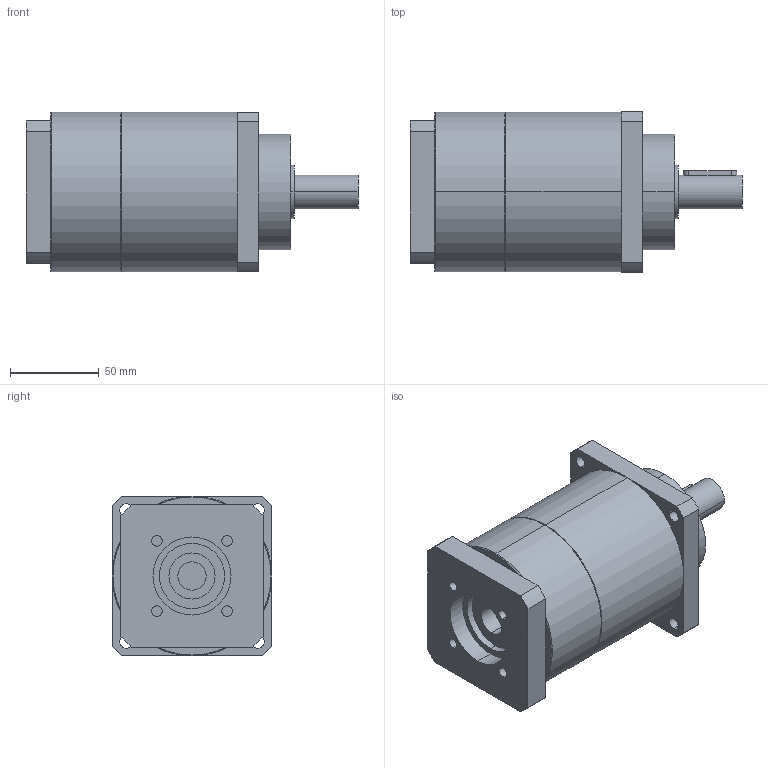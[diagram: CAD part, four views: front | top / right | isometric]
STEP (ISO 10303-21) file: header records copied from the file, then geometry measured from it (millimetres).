
FILE_DESCRIPTION(('CoCreate Modeling STEP Export'),'2;1');
FILE_NAME('GPT90_ig-9-12-16-20-25-28-35-40-50-70-100_19_B5T_15.87_P31.stp','2015-02-04T11:31:36',(''),(''),'CoCreate Modeling STEP processor for AP214 (Solid Model)','CoCreate Modeling 16.00C 25-Feb-2009 (C) Parametric Technology GmbH','');
FILE_SCHEMA(('AUTOMOTIVE_DESIGN { 1 0 10303 214 1 1 1 1 }'));
Length unit declared in the file: millimetre
Products named in the file (2): GPT90_ig-9-12-16-20-25-28-35-40-50-70-100_19_B5T_15.87_P31
Assembly tree (1 placements, depth 2):
  GPT90_ig-9-12-16-20-25-28-35-40-50-70-100_19_B5T_15.87_P31
    GPT90_ig-9-12-16-20-25-28-35-40-50-70-100_19_B5T_15.87_P31
Bounding box: 187 x 90 x 90 mm (x, y, z)
Volume: 896129.2 mm3; surface area: 67676 mm2
Topology: 1 solids, 1 shells, 88 faces, 221 edges, 148 vertices
Faces by surface type: cylinder 46, plane 38, cone 4
Entity records: 2699 total; most frequent: CARTESIAN_POINT 754, ORIENTED_EDGE 442, DIRECTION 330, EDGE_CURVE 221, VERTEX_POINT 148, AXIS2_PLACEMENT_3D 121, EDGE_LOOP 109, VECTOR 88
